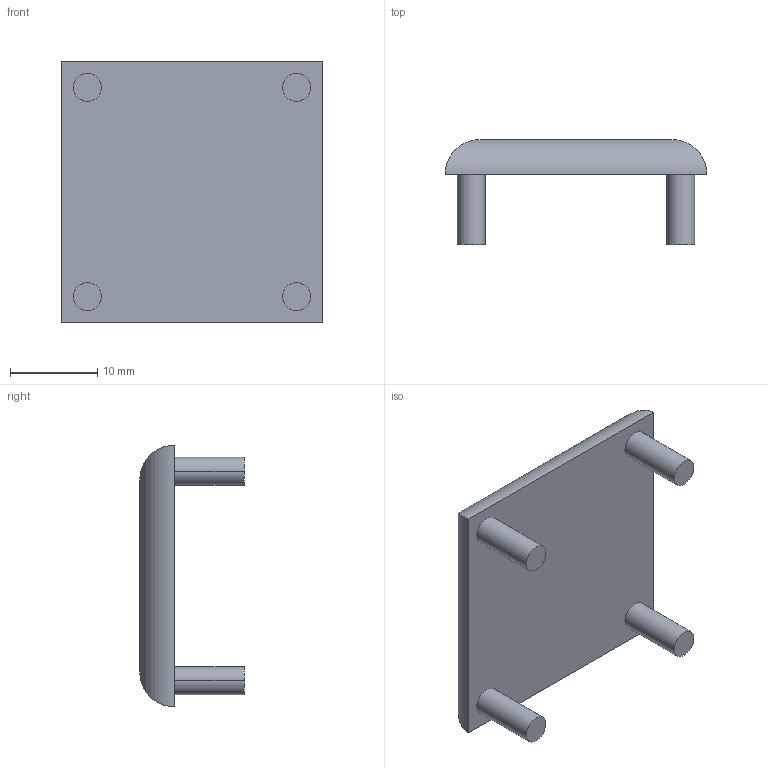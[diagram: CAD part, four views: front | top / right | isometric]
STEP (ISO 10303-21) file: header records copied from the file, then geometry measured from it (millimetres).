
FILE_DESCRIPTION((''),'2;1');
FILE_NAME('TAC303008','2002-12-27T',('Lipro doo'),('Lipro d.o.o.'),'PRO/ENGINEER BY PARAMETRIC TECHNOLOGY CORPORATION, 2001150','PRO/ENGINEER BY PARAMETRIC TECHNOLOGY CORPORATION, 2001150','');
FILE_SCHEMA(('CONFIG_CONTROL_DESIGN'));
Length unit declared in the file: millimetre
Products named in the file (1): TAC303008
Bounding box: 30 x 12 x 30 mm (x, y, z)
Volume: 3469.9 mm3; surface area: 2386.6 mm2
Topology: 1 solids, 1 shells, 18 faces, 36 edges, 24 vertices
Faces by surface type: cylinder 12, plane 6
Entity records: 574 total; most frequent: CARTESIAN_POINT 146, DIRECTION 84, ORIENTED_EDGE 72, EDGE_CURVE 36, AXIS2_PLACEMENT_3D 34, VERTEX_POINT 24, EDGE_LOOP 22, FACE_OUTER_BOUND 18
